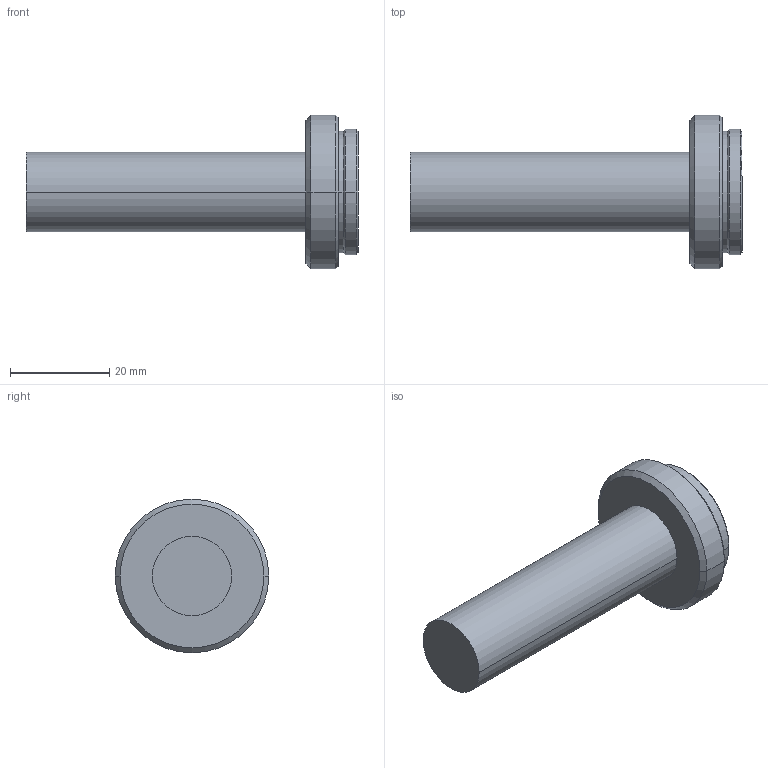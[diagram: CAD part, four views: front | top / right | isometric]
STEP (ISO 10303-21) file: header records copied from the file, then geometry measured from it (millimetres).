
FILE_DESCRIPTION (( 'STEP AP214' ), '1' );
FILE_NAME ('VS-TC1.5-70.STEP', '2019-12-27T02:46:18', ( '' ), ( '' ), 'SwSTEP 2.0', 'SolidWorks 2017', '' );
FILE_SCHEMA (( 'AUTOMOTIVE_DESIGN' ));
Length unit declared in the file: millimetre
Products named in the file (1): VS-TC1.5-70
Bounding box: 67 x 31 x 31 mm (x, y, z)
Volume: 18189.2 mm3; surface area: 5237.2 mm2
Topology: 1 solids, 1 shells, 20 faces, 38 edges, 22 vertices
Faces by surface type: cone 8, cylinder 8, plane 4
Entity records: 538 total; most frequent: DIRECTION 102, CARTESIAN_POINT 81, ORIENTED_EDGE 76, AXIS2_PLACEMENT_3D 43, EDGE_CURVE 38, CIRCLE 22, VERTEX_POINT 22, EDGE_LOOP 22
